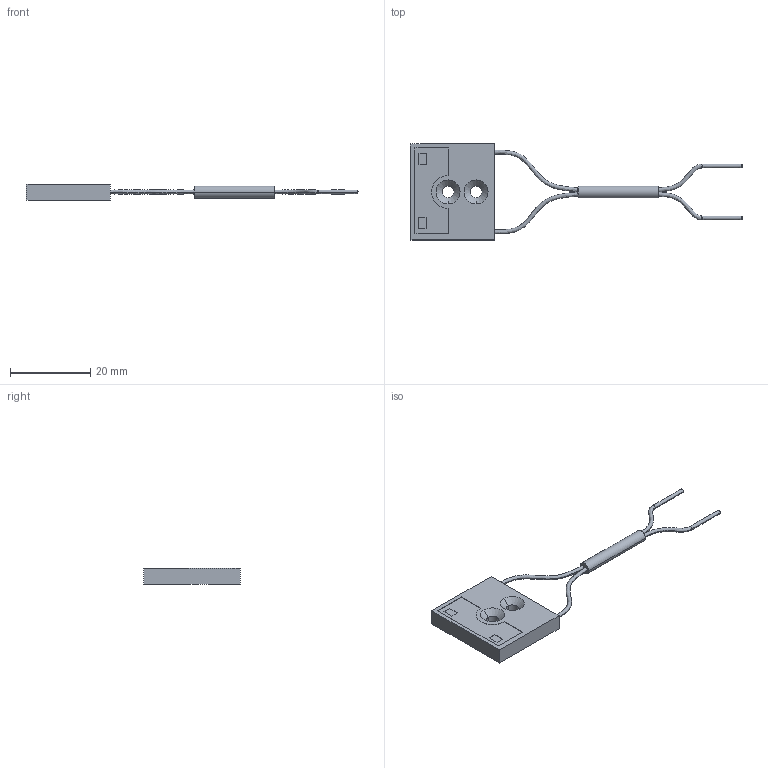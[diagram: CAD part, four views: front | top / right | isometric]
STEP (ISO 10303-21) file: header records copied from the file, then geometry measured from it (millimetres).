
FILE_DESCRIPTION (( 'STEP AP203' ), '1' );
FILE_NAME ('FD-L41.STEP', '2005-09-04T09:49:09', ( '川島良英' ), ( ' ' ), 'SwSTEP 2.0', 'SolidWorks 2004251', '' );
FILE_SCHEMA (( 'CONFIG_CONTROL_DESIGN' ));
Length unit declared in the file: millimetre
Products named in the file (1): FD-L41
Bounding box: 83 x 24 x 4 mm (x, y, z)
Volume: 2130.1 mm3; surface area: 1909.5 mm2
Topology: 1 solids, 1 shells, 52 faces, 120 edges, 77 vertices
Faces by surface type: plane 26, bspline 15, cylinder 7, cone 4
Entity records: 2148 total; most frequent: CARTESIAN_POINT 1011, ORIENTED_EDGE 240, DIRECTION 178, EDGE_CURVE 120, VERTEX_POINT 77, VECTOR 66, LINE 66, EDGE_LOOP 65
